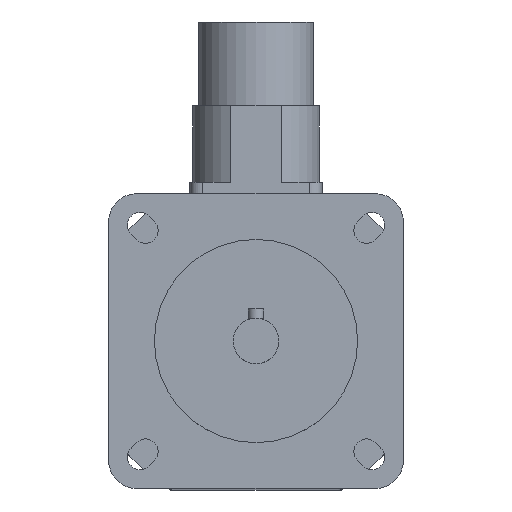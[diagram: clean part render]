
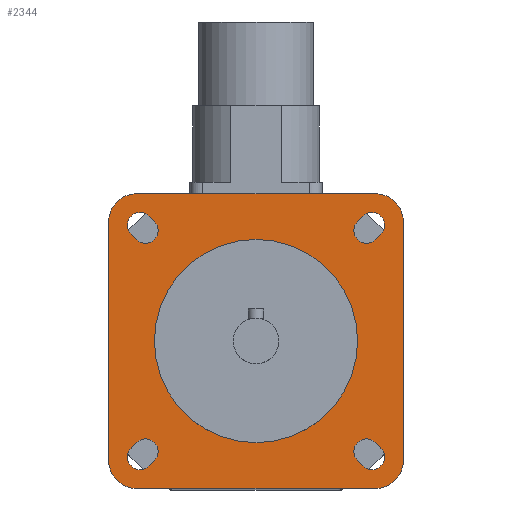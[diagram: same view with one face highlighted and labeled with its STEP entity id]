
A CAD part, top view. The second image highlights one B-rep face of the part: STEP entity #2344.
In plain terms, the highlighted planar face has unit normal (0, 0, 1).
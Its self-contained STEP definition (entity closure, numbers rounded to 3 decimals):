
#28=FACE_BOUND('',#421,.T.);
#29=FACE_BOUND('',#422,.T.);
#30=FACE_BOUND('',#423,.T.);
#31=FACE_BOUND('',#424,.T.);
#32=FACE_BOUND('',#425,.T.);
#46=CIRCLE('',#2435,20.);
#83=CIRCLE('',#2499,2.5);
#87=CIRCLE('',#2506,2.5);
#88=CIRCLE('',#2509,2.5);
#89=CIRCLE('',#2512,2.5);
#99=CIRCLE('',#2527,2.5);
#100=CIRCLE('',#2530,2.5);
#101=CIRCLE('',#2533,2.5);
#102=CIRCLE('',#2536,2.5);
#103=CIRCLE('',#2538,5.5);
#104=CIRCLE('',#2540,5.5);
#105=CIRCLE('',#2542,5.5);
#106=CIRCLE('',#2544,5.5);
#281=FACE_OUTER_BOUND('',#420,.T.);
#420=EDGE_LOOP('',(#1806,#1807,#1808,#1809,#1810,#1811,#1812,#1813));
#421=EDGE_LOOP('',(#1814));
#422=EDGE_LOOP('',(#1815,#1816,#1817,#1818));
#423=EDGE_LOOP('',(#1819,#1820,#1821,#1822));
#424=EDGE_LOOP('',(#1823,#1824,#1825,#1826));
#425=EDGE_LOOP('',(#1827,#1828,#1829,#1830));
#564=LINE('',#3642,#783);
#572=LINE('',#3666,#791);
#576=LINE('',#3676,#795);
#580=LINE('',#3686,#799);
#596=LINE('',#3737,#815);
#598=LINE('',#3743,#817);
#600=LINE('',#3749,#819);
#602=LINE('',#3755,#821);
#611=LINE('',#3783,#830);
#612=LINE('',#3784,#831);
#613=LINE('',#3785,#832);
#614=LINE('',#3786,#833);
#783=VECTOR('',#2885,1.5);
#791=VECTOR('',#2907,1.5);
#795=VECTOR('',#2917,1.5);
#799=VECTOR('',#2927,1.5);
#815=VECTOR('',#2973,1.5);
#817=VECTOR('',#2981,1.5);
#819=VECTOR('',#2989,1.5);
#821=VECTOR('',#2997,1.5);
#830=VECTOR('',#3028,47.);
#831=VECTOR('',#3029,47.);
#832=VECTOR('',#3030,47.);
#833=VECTOR('',#3031,47.);
#956=VERTEX_POINT('',#3463);
#1021=VERTEX_POINT('',#3639);
#1022=VERTEX_POINT('',#3641);
#1023=VERTEX_POINT('',#3645);
#1030=VERTEX_POINT('',#3663);
#1031=VERTEX_POINT('',#3665);
#1032=VERTEX_POINT('',#3669);
#1033=VERTEX_POINT('',#3673);
#1034=VERTEX_POINT('',#3675);
#1035=VERTEX_POINT('',#3679);
#1036=VERTEX_POINT('',#3683);
#1037=VERTEX_POINT('',#3685);
#1038=VERTEX_POINT('',#3689);
#1057=VERTEX_POINT('',#3735);
#1058=VERTEX_POINT('',#3741);
#1059=VERTEX_POINT('',#3747);
#1060=VERTEX_POINT('',#3753);
#1061=VERTEX_POINT('',#3759);
#1062=VERTEX_POINT('',#3761);
#1063=VERTEX_POINT('',#3765);
#1064=VERTEX_POINT('',#3767);
#1065=VERTEX_POINT('',#3771);
#1066=VERTEX_POINT('',#3773);
#1067=VERTEX_POINT('',#3777);
#1068=VERTEX_POINT('',#3779);
#1190=EDGE_CURVE('',#956,#956,#46,.T.);
#1276=EDGE_CURVE('',#1022,#1021,#564,.T.);
#1279=EDGE_CURVE('',#1021,#1023,#83,.T.);
#1288=EDGE_CURVE('',#1031,#1030,#572,.T.);
#1291=EDGE_CURVE('',#1030,#1032,#87,.T.);
#1293=EDGE_CURVE('',#1034,#1033,#576,.T.);
#1296=EDGE_CURVE('',#1033,#1035,#88,.T.);
#1298=EDGE_CURVE('',#1037,#1036,#580,.T.);
#1301=EDGE_CURVE('',#1036,#1038,#89,.T.);
#1324=EDGE_CURVE('',#1035,#1057,#596,.T.);
#1325=EDGE_CURVE('',#1057,#1034,#99,.T.);
#1327=EDGE_CURVE('',#1032,#1058,#598,.T.);
#1328=EDGE_CURVE('',#1058,#1031,#100,.T.);
#1330=EDGE_CURVE('',#1038,#1059,#600,.T.);
#1331=EDGE_CURVE('',#1059,#1037,#101,.T.);
#1333=EDGE_CURVE('',#1023,#1060,#602,.T.);
#1334=EDGE_CURVE('',#1060,#1022,#102,.T.);
#1336=EDGE_CURVE('',#1062,#1061,#103,.T.);
#1339=EDGE_CURVE('',#1064,#1063,#104,.T.);
#1342=EDGE_CURVE('',#1066,#1065,#105,.T.);
#1345=EDGE_CURVE('',#1068,#1067,#106,.T.);
#1347=EDGE_CURVE('',#1061,#1068,#611,.T.);
#1348=EDGE_CURVE('',#1067,#1066,#612,.T.);
#1349=EDGE_CURVE('',#1065,#1064,#613,.T.);
#1350=EDGE_CURVE('',#1063,#1062,#614,.T.);
#1806=ORIENTED_EDGE('',*,*,#1347,.T.);
#1807=ORIENTED_EDGE('',*,*,#1345,.T.);
#1808=ORIENTED_EDGE('',*,*,#1348,.T.);
#1809=ORIENTED_EDGE('',*,*,#1342,.T.);
#1810=ORIENTED_EDGE('',*,*,#1349,.T.);
#1811=ORIENTED_EDGE('',*,*,#1339,.T.);
#1812=ORIENTED_EDGE('',*,*,#1350,.T.);
#1813=ORIENTED_EDGE('',*,*,#1336,.T.);
#1814=ORIENTED_EDGE('',*,*,#1190,.T.);
#1815=ORIENTED_EDGE('',*,*,#1324,.T.);
#1816=ORIENTED_EDGE('',*,*,#1325,.T.);
#1817=ORIENTED_EDGE('',*,*,#1293,.T.);
#1818=ORIENTED_EDGE('',*,*,#1296,.T.);
#1819=ORIENTED_EDGE('',*,*,#1327,.T.);
#1820=ORIENTED_EDGE('',*,*,#1328,.T.);
#1821=ORIENTED_EDGE('',*,*,#1288,.T.);
#1822=ORIENTED_EDGE('',*,*,#1291,.T.);
#1823=ORIENTED_EDGE('',*,*,#1330,.T.);
#1824=ORIENTED_EDGE('',*,*,#1331,.T.);
#1825=ORIENTED_EDGE('',*,*,#1298,.T.);
#1826=ORIENTED_EDGE('',*,*,#1301,.T.);
#1827=ORIENTED_EDGE('',*,*,#1333,.T.);
#1828=ORIENTED_EDGE('',*,*,#1334,.T.);
#1829=ORIENTED_EDGE('',*,*,#1276,.T.);
#1830=ORIENTED_EDGE('',*,*,#1279,.T.);
#2248=PLANE('',#2545);
#2344=ADVANCED_FACE('',(#281,#28,#29,#30,#31,#32),#2248,.T.);
#2435=AXIS2_PLACEMENT_3D('',#3464,#2710,#2711);
#2499=AXIS2_PLACEMENT_3D('',#3647,#2890,#2891);
#2506=AXIS2_PLACEMENT_3D('',#3671,#2912,#2913);
#2509=AXIS2_PLACEMENT_3D('',#3681,#2922,#2923);
#2512=AXIS2_PLACEMENT_3D('',#3691,#2932,#2933);
#2527=AXIS2_PLACEMENT_3D('',#3739,#2976,#2977);
#2530=AXIS2_PLACEMENT_3D('',#3745,#2984,#2985);
#2533=AXIS2_PLACEMENT_3D('',#3751,#2992,#2993);
#2536=AXIS2_PLACEMENT_3D('',#3757,#3000,#3001);
#2538=AXIS2_PLACEMENT_3D('',#3762,#3005,#3006);
#2540=AXIS2_PLACEMENT_3D('',#3768,#3011,#3012);
#2542=AXIS2_PLACEMENT_3D('',#3774,#3017,#3018);
#2544=AXIS2_PLACEMENT_3D('',#3780,#3023,#3024);
#2545=AXIS2_PLACEMENT_3D('',#3782,#3026,#3027);
#2710=DIRECTION('center_axis',(0.,0.,-1.));
#2711=DIRECTION('ref_axis',(-1.,0.,0.));
#2885=DIRECTION('',(-0.707,-0.707,0.));
#2890=DIRECTION('center_axis',(0.,0.,-1.));
#2891=DIRECTION('ref_axis',(0.707,-0.707,0.));
#2907=DIRECTION('',(-0.707,0.707,0.));
#2912=DIRECTION('center_axis',(0.,0.,-1.));
#2913=DIRECTION('ref_axis',(-0.707,-0.707,0.));
#2917=DIRECTION('',(-0.707,-0.707,0.));
#2922=DIRECTION('center_axis',(0.,0.,-1.));
#2923=DIRECTION('ref_axis',(0.707,-0.707,0.));
#2927=DIRECTION('',(-0.707,0.707,0.));
#2932=DIRECTION('center_axis',(0.,0.,-1.));
#2933=DIRECTION('ref_axis',(-0.707,-0.707,0.));
#2973=DIRECTION('',(0.707,0.707,0.));
#2976=DIRECTION('center_axis',(0.,0.,-1.));
#2977=DIRECTION('ref_axis',(-0.707,0.707,0.));
#2981=DIRECTION('',(0.707,-0.707,0.));
#2984=DIRECTION('center_axis',(0.,0.,-1.));
#2985=DIRECTION('ref_axis',(0.707,0.707,0.));
#2989=DIRECTION('',(0.707,-0.707,0.));
#2992=DIRECTION('center_axis',(0.,0.,-1.));
#2993=DIRECTION('ref_axis',(0.707,0.707,0.));
#2997=DIRECTION('',(0.707,0.707,0.));
#3000=DIRECTION('center_axis',(0.,0.,-1.));
#3001=DIRECTION('ref_axis',(-0.707,0.707,0.));
#3005=DIRECTION('center_axis',(0.,0.,1.));
#3006=DIRECTION('ref_axis',(1.,0.,0.));
#3011=DIRECTION('center_axis',(0.,0.,1.));
#3012=DIRECTION('ref_axis',(0.,-1.,0.));
#3017=DIRECTION('center_axis',(0.,0.,1.));
#3018=DIRECTION('ref_axis',(-1.,0.,0.));
#3023=DIRECTION('center_axis',(0.,0.,1.));
#3024=DIRECTION('ref_axis',(0.,1.,0.));
#3026=DIRECTION('center_axis',(0.,0.,1.));
#3027=DIRECTION('ref_axis',(1.,0.,0.));
#3028=DIRECTION('',(-1.,0.,0.));
#3029=DIRECTION('',(0.,-1.,0.));
#3030=DIRECTION('',(1.,0.,0.));
#3031=DIRECTION('',(0.,1.,0.));
#3463=CARTESIAN_POINT('',(20.,0.,159.));
#3464=CARTESIAN_POINT('Origin',(0.,0.,159.));
#3639=CARTESIAN_POINT('',(-21.036,-24.572,159.));
#3641=CARTESIAN_POINT('',(-19.976,-23.511,159.));
#3642=CARTESIAN_POINT('',(-9.634,-13.17,159.));
#3645=CARTESIAN_POINT('',(-24.572,-21.036,159.));
#3647=CARTESIAN_POINT('Origin',(-22.804,-22.804,159.));
#3663=CARTESIAN_POINT('',(-24.572,21.036,159.));
#3665=CARTESIAN_POINT('',(-23.511,19.976,159.));
#3666=CARTESIAN_POINT('',(-13.17,9.634,159.));
#3669=CARTESIAN_POINT('',(-21.036,24.572,159.));
#3671=CARTESIAN_POINT('Origin',(-22.804,22.804,159.));
#3673=CARTESIAN_POINT('',(23.511,19.976,159.));
#3675=CARTESIAN_POINT('',(24.572,21.036,159.));
#3676=CARTESIAN_POINT('',(12.64,9.104,159.));
#3679=CARTESIAN_POINT('',(19.976,23.511,159.));
#3681=CARTESIAN_POINT('Origin',(21.744,21.744,159.));
#3683=CARTESIAN_POINT('',(19.976,-23.511,159.));
#3685=CARTESIAN_POINT('',(21.036,-24.572,159.));
#3686=CARTESIAN_POINT('',(9.104,-12.64,159.));
#3689=CARTESIAN_POINT('',(23.511,-19.976,159.));
#3691=CARTESIAN_POINT('Origin',(21.744,-21.744,159.));
#3735=CARTESIAN_POINT('',(21.036,24.572,159.));
#3737=CARTESIAN_POINT('',(9.634,13.17,159.));
#3739=CARTESIAN_POINT('Origin',(22.804,22.804,159.));
#3741=CARTESIAN_POINT('',(-19.976,23.511,159.));
#3743=CARTESIAN_POINT('',(-9.104,12.64,159.));
#3745=CARTESIAN_POINT('Origin',(-21.744,21.744,159.));
#3747=CARTESIAN_POINT('',(24.572,-21.036,159.));
#3749=CARTESIAN_POINT('',(13.17,-9.634,159.));
#3751=CARTESIAN_POINT('Origin',(22.804,-22.804,159.));
#3753=CARTESIAN_POINT('',(-23.511,-19.976,159.));
#3755=CARTESIAN_POINT('',(-12.64,-9.104,159.));
#3757=CARTESIAN_POINT('Origin',(-21.744,-21.744,159.));
#3759=CARTESIAN_POINT('',(23.5,29.,159.));
#3761=CARTESIAN_POINT('',(29.,23.5,159.));
#3762=CARTESIAN_POINT('Origin',(23.5,23.5,159.));
#3765=CARTESIAN_POINT('',(29.,-23.5,159.));
#3767=CARTESIAN_POINT('',(23.5,-29.,159.));
#3768=CARTESIAN_POINT('Origin',(23.5,-23.5,159.));
#3771=CARTESIAN_POINT('',(-23.5,-29.,159.));
#3773=CARTESIAN_POINT('',(-29.,-23.5,159.));
#3774=CARTESIAN_POINT('Origin',(-23.5,-23.5,159.));
#3777=CARTESIAN_POINT('',(-29.,23.5,159.));
#3779=CARTESIAN_POINT('',(-23.5,29.,159.));
#3780=CARTESIAN_POINT('Origin',(-23.5,23.5,159.));
#3782=CARTESIAN_POINT('Origin',(0.,0.,
159.));
#3783=CARTESIAN_POINT('',(23.5,29.,159.));
#3784=CARTESIAN_POINT('',(-29.,23.5,159.));
#3785=CARTESIAN_POINT('',(-23.5,-29.,159.));
#3786=CARTESIAN_POINT('',(29.,-23.5,159.));
